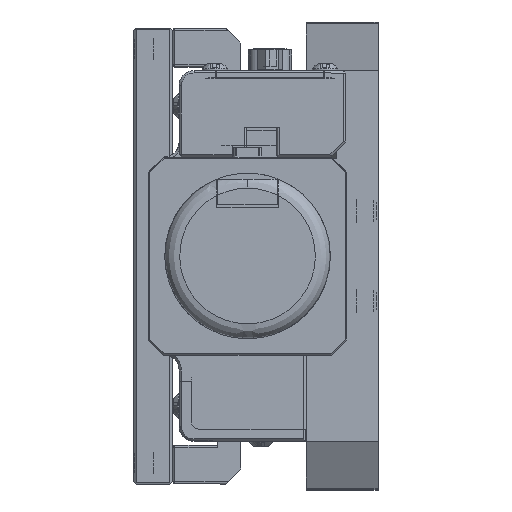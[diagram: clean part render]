
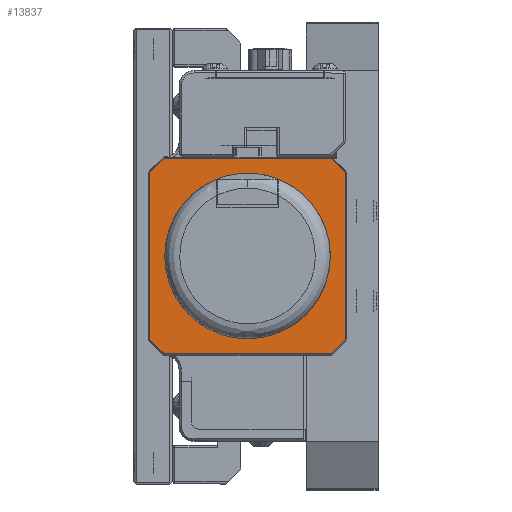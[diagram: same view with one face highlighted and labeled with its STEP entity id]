
A CAD part, left-side view. The second image highlights one B-rep face of the part: STEP entity #13837.
In plain terms, the highlighted planar face has unit normal (-1, 0, 0).
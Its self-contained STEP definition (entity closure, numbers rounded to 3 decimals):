
#3459 = VERTEX_POINT ( 'NONE', #70726 ) ;
#7897 = ORIENTED_EDGE ( 'NONE', *, *, #27002, .F. ) ;
#8907 = FACE_OUTER_BOUND ( 'NONE', #45378, .T. ) ;
#13108 = VECTOR ( 'NONE', #49516, 1000. ) ;
#13837 = ADVANCED_FACE ( 'NONE', ( #8907 ), #39582, .T. ) ;
#14201 = VERTEX_POINT ( 'NONE', #19815 ) ;
#14382 = ORIENTED_EDGE ( 'NONE', *, *, #26596, .F. ) ;
#16856 = CARTESIAN_POINT ( 'NONE',  ( -120.65, 48.324, 56.918 ) ) ;
#17834 = ORIENTED_EDGE ( 'NONE', *, *, #26997, .F. ) ;
#19815 = CARTESIAN_POINT ( 'NONE',  ( -120.65, 9.948, 59.944 ) ) ;
#20170 = CARTESIAN_POINT ( 'NONE',  ( -120.65, 45.297, 59.944 ) ) ;
#22242 = VERTEX_POINT ( 'NONE', #45180 ) ;
#22421 = AXIS2_PLACEMENT_3D ( 'NONE', #39484, #39290, #39188 ) ;
#23367 = VECTOR ( 'NONE', #86975, 1000. ) ;
#24501 = CARTESIAN_POINT ( 'NONE',  ( -120.65, 9.948, 18.542 ) ) ;
#24637 = VERTEX_POINT ( 'NONE', #24501 ) ;
#26596 = EDGE_CURVE ( 'NONE', #41603, #3459, #79775, .T. ) ;
#26876 = EDGE_CURVE ( 'NONE', #24637, #41603, #39022, .T. ) ;
#26997 = EDGE_CURVE ( 'NONE', #80106, #24637, #27755, .T. ) ;
#27002 = EDGE_CURVE ( 'NONE', #22242, #80106, #81885, .T. ) ;
#27270 = EDGE_CURVE ( 'NONE', #14201, #22242, #38933, .T. ) ;
#27394 = EDGE_CURVE ( 'NONE', #32093, #14201, #27665, .T. ) ;
#27408 = EDGE_CURVE ( 'NONE', #56965, #32093, #81792, .T. ) ;
#27665 = LINE ( 'NONE', #49583, #13108 ) ;
#27689 = EDGE_CURVE ( 'NONE', #3459, #56965, #76187, .T. ) ;
#27755 = LINE ( 'NONE', #68232, #63239 ) ;
#32093 = VERTEX_POINT ( 'NONE', #20170 ) ;
#38837 = CARTESIAN_POINT ( 'NONE',  ( -120.65, 48.324, 18.288 ) ) ;
#38933 = LINE ( 'NONE', #55126, #57737 ) ;
#39022 = LINE ( 'NONE', #74554, #74180 ) ;
#39188 = DIRECTION ( 'NONE',  ( 0., 0., 1. ) ) ;
#39290 = DIRECTION ( 'NONE',  ( -1., 0., 0. ) ) ;
#39373 = DIRECTION ( 'NONE',  ( 0., 0., 1. ) ) ;
#39484 = CARTESIAN_POINT ( 'NONE',  ( -120.65, 6.668, 60.198 ) ) ;
#39582 = PLANE ( 'NONE',  #22421 ) ;
#41603 = VERTEX_POINT ( 'NONE', #72733 ) ;
#45180 = CARTESIAN_POINT ( 'NONE',  ( -120.65, 6.922, 56.918 ) ) ;
#45378 = EDGE_LOOP ( 'NONE', ( #14382, #68533, #17834, #7897, #54007, #74254, #64026, #51228 ) ) ;
#49288 = DIRECTION ( 'NONE',  ( 0., -0.707, 0.707 ) ) ;
#49516 = DIRECTION ( 'NONE',  ( 0., -1., 0. ) ) ;
#49583 = CARTESIAN_POINT ( 'NONE',  ( -120.65, 6.668, 59.944 ) ) ;
#50328 = CARTESIAN_POINT ( 'NONE',  ( -120.65, 25.855, 79.386 ) ) ;
#51228 = ORIENTED_EDGE ( 'NONE', *, *, #27689, .F. ) ;
#54007 = ORIENTED_EDGE ( 'NONE', *, *, #27270, .F. ) ;
#55126 = CARTESIAN_POINT ( 'NONE',  ( -120.65, 8.435, 58.431 ) ) ;
#55843 = DIRECTION ( 'NONE',  ( 0., -0.707, -0.707 ) ) ;
#56965 = VERTEX_POINT ( 'NONE', #16856 ) ;
#57642 = VECTOR ( 'NONE', #39373, 1000. ) ;
#57737 = VECTOR ( 'NONE', #55843, 1000. ) ;
#63162 = VECTOR ( 'NONE', #49288, 1000. ) ;
#63239 = VECTOR ( 'NONE', #67731, 1000. ) ;
#64026 = ORIENTED_EDGE ( 'NONE', *, *, #27408, .F. ) ;
#67731 = DIRECTION ( 'NONE',  ( 0., 0.707, -0.707 ) ) ;
#67947 = CARTESIAN_POINT ( 'NONE',  ( -120.65, 6.922, 60.198 ) ) ;
#68232 = CARTESIAN_POINT ( 'NONE',  ( -120.65, -12.52, 41.01 ) ) ;
#68533 = ORIENTED_EDGE ( 'NONE', *, *, #26876, .F. ) ;
#68552 = DIRECTION ( 'NONE',  ( 0., 0., -1. ) ) ;
#70726 = CARTESIAN_POINT ( 'NONE',  ( -120.65, 48.324, 21.568 ) ) ;
#72733 = CARTESIAN_POINT ( 'NONE',  ( -120.65, 45.297, 18.542 ) ) ;
#74180 = VECTOR ( 'NONE', #74732, 1000. ) ;
#74254 = ORIENTED_EDGE ( 'NONE', *, *, #27394, .F. ) ;
#74554 = CARTESIAN_POINT ( 'NONE',  ( -120.65, 6.668, 18.542 ) ) ;
#74732 = DIRECTION ( 'NONE',  ( 0., 1., 0. ) ) ;
#76187 = LINE ( 'NONE', #38837, #57642 ) ;
#79684 = VECTOR ( 'NONE', #68552, 1000. ) ;
#79775 = LINE ( 'NONE', #88802, #23367 ) ;
#80106 = VERTEX_POINT ( 'NONE', #82250 ) ;
#81792 = LINE ( 'NONE', #50328, #63162 ) ;
#81885 = LINE ( 'NONE', #67947, #79684 ) ;
#82250 = CARTESIAN_POINT ( 'NONE',  ( -120.65, 6.922, 21.568 ) ) ;
#86975 = DIRECTION ( 'NONE',  ( 0., 0.707, 0.707 ) ) ;
#88802 = CARTESIAN_POINT ( 'NONE',  ( -120.65, 46.81, 20.055 ) ) ;
